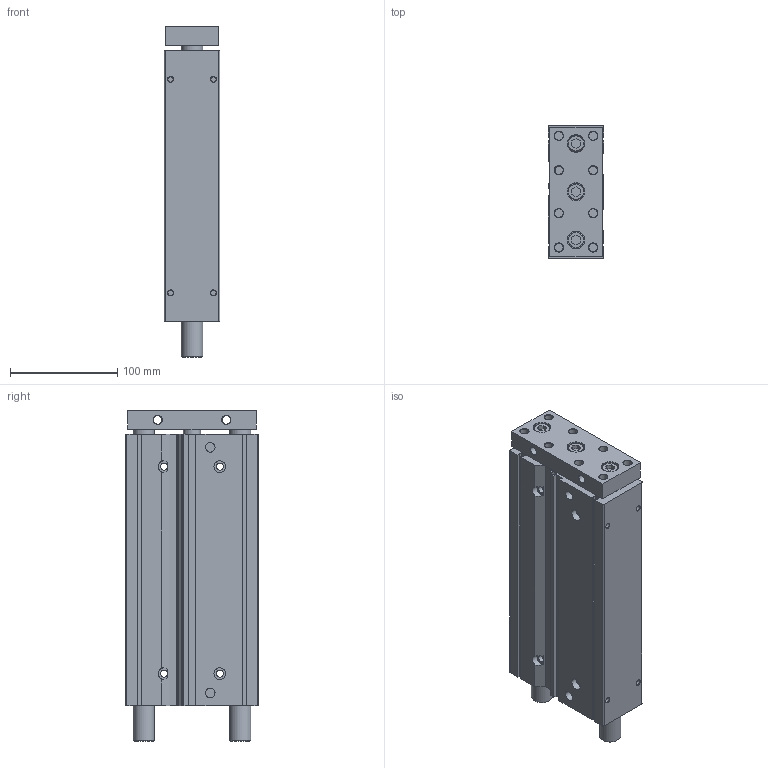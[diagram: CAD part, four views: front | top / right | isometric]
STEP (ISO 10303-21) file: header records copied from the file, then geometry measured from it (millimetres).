
FILE_DESCRIPTION((''),'2;1');
FILE_NAME('I:\3D電子目錄\氣缸\TB(U)\TB(U)40\TB(U)40\TB(U)40x200.stp','2007-08-06T09:17:42',('Administrator'),(''),'Autodesk Inventor 2008','Autodesk Inventor 2008','');
FILE_SCHEMA(('AUTOMOTIVE_DESIGN { 1 0 10303 214 1 1 1 1 }'));
Length unit declared in the file: millimetre
Products named in the file (1): TB(U)40X200
Bounding box: 52 x 124 x 308 mm (x, y, z)
Volume: 1629120.3 mm3; surface area: 161600 mm2
Topology: 1 solids, 1 shells, 218 faces, 500 edges, 320 vertices
Faces by surface type: plane 104, cylinder 52, cone 37, bspline 22, torus 3
Full cylindrical faces by diameter (mm): 5 x4, 6 x4, 6.5 x4, 8 x10, 9 x2, 11 x6, 15 x3, 16 x4, 20 x4, 28 x2, 35 x1
Entity records: 5822 total; most frequent: CARTESIAN_POINT 1073, DIRECTION 962, ORIENTED_EDGE 824, EDGE_CURVE 412, EDGE_LOOP 374, AXIS2_PLACEMENT_3D 353, VERTEX_POINT 320, VECTOR 256
